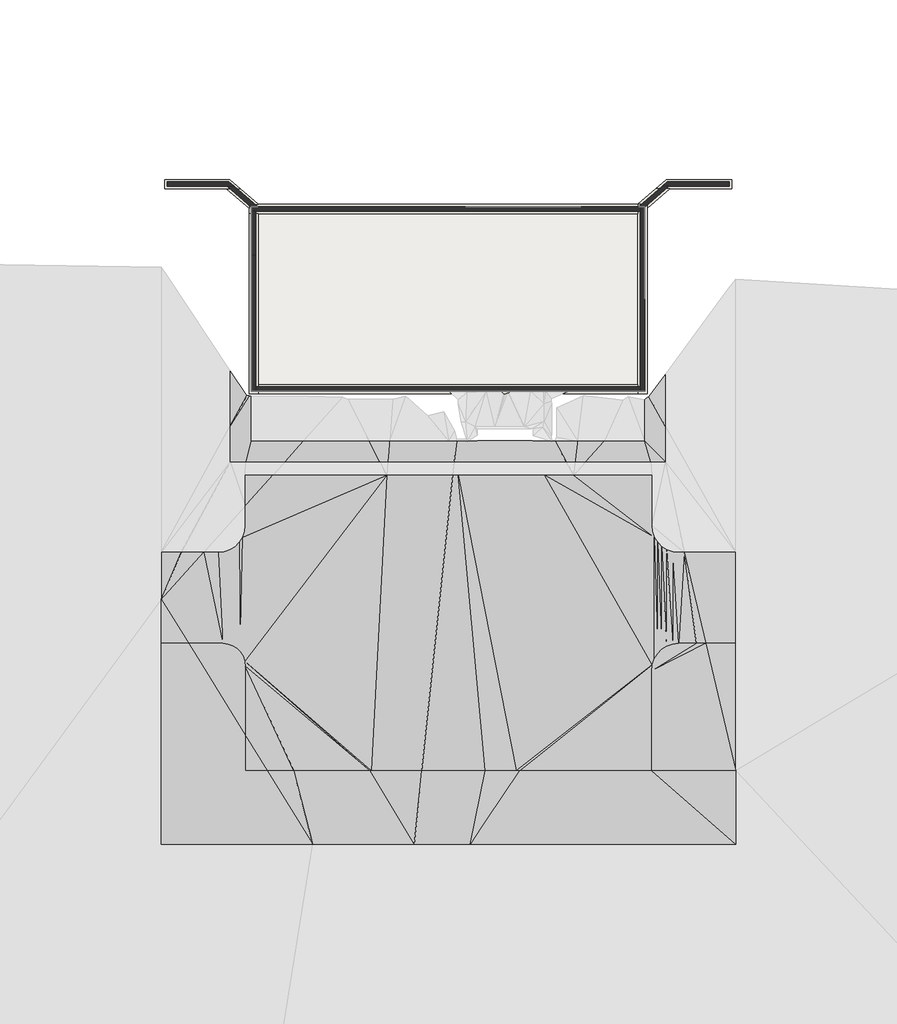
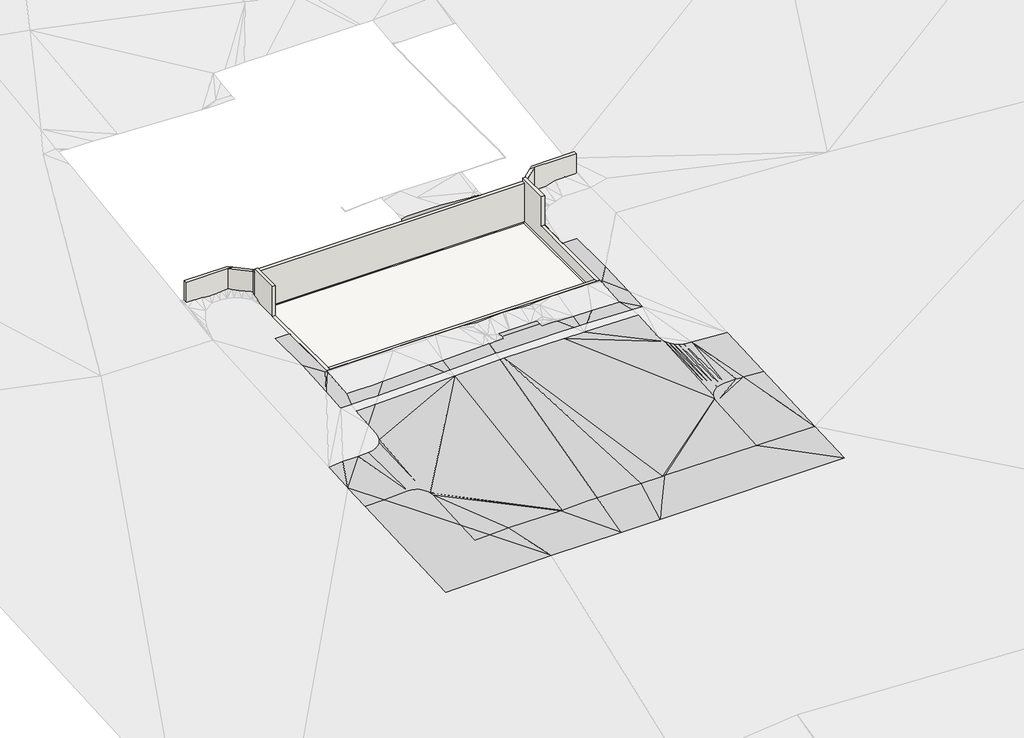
# One storey, part 1 of 2: 17 walls, 4 proxies, 1 slab.
"""IFC4 building model written with IfcOpenShell, lengths in millimetres."""

from ifc_helpers import new_model, si_unit, frame, origin, place, context, project, spatial, polyline, outline, extrude, faceted_brep, triangles, element, save

model = new_model("IFC4")

# Units and contexts
model_context = context("Model", 3, world=origin())
ifc_project = project(units=[si_unit("LENGTHUNIT", "METRE", prefix="MILLI")], contexts=[model_context])

# Site, building, storey
site = spatial("IfcSite", under=ifc_project)
building = spatial("IfcBuilding", under=site)
storey = spatial("IfcBuildingStorey", under=building, Name="T. O. Footing", Elevation=38404.8)

# Proxies
placement = place(None, origin())
element("IfcBuildingElementProxy", 1, Name="Building Element Proxy", at=placement, inside=storey, context=model_context, shape_type="Tessellation", body=[
    triangles([(617.5082382, -9798.1275146, 38379.241095), (617.5082382, -9798.1275146, 39624.0), (617.5082382, -8388.4769302, 38379.241095), (617.5082382, -8388.4769302, 39649.5472778), (617.5082382, -6491.3572632, 38379.241095), (617.5082382, -6491.3572632, 39692.4004761), (617.5082382, -5660.0510284, 38379.241095), (617.5082382, -5660.0510284, 39839.0984985), (617.5082382, -5389.9843735, 38379.241095), (617.5082382, -5389.9843735, 39859.627478), (617.5082382, -5186.2096024, 38379.241095), (617.5082382, -5186.2096024, 39876.8310791), (617.5082382, -4959.5048355, 38379.241095), (617.5082382, -4959.5048355, 39928.8), (617.5082382, -4397.1458473, 38379.241095), (617.5082382, -4397.1458473, 39928.8), (617.5082382, -4125.0095512, 38379.241095), (617.5082382, -4125.0095512, 39928.8), (617.5082382, -3716.6620926, 38379.241095), (617.5082382, -3716.6620926, 39928.8), (617.5082382, -3634.8040077, 38379.241095), (617.5082382, -3634.8040077, 39991.1403809), (617.5082382, -3630.857737, 38379.241095), (617.5082382, -3630.857737, 40009.7345947), (617.5082382, -3622.7521271, 38379.241095), (617.5082382, -3622.7521271, 40121.2905762)], [[1, 4, 2], [1, 3, 4], [3, 6, 4], [3, 5, 6], [5, 8, 6], [5, 7, 8], [7, 10, 8], [7, 9, 10], [9, 12, 10], [9, 11, 12], [11, 14, 12], [11, 13, 14], [13, 16, 14], [13, 15, 16], [15, 18, 16], [15, 17, 18], [17, 20, 18], [17, 19, 20], [19, 22, 20], [19, 21, 22], [21, 24, 22], [21, 23, 24], [23, 26, 24], [23, 25, 26]], closed=False),
    triangles([(-25379.7113159, -3622.7521271, 38379.241095), (-25379.7113159, -3622.7521271, 40728.3093384), (-25669.9540649, -3622.7521271, 38379.241095), (-25669.9540649, -3622.7521271, 40233.6), (-25697.433783, -3622.7521271, 38379.241095), (-25697.433783, -3622.7521271, 40198.2626221), (-25798.4927307, -3622.7521271, 38379.241095), (-25798.4927307, -3622.7521271, 40250.5245483), (-25798.4927307, -3694.0181259, 38379.241095), (-25798.4927307, -3694.0181259, 40044.6719971), (-25798.4927307, -4013.5372856, 38379.241095), (-25798.4927307, -4013.5372856, 39938.7296265), (-25798.4927307, -4331.7190269, 38379.241095), (-25798.4927307, -4331.7190269, 39873.1940918), (-25798.4927307, -4494.3152069, 38379.241095), (-25798.4927307, -4494.3152069, 39768.6934937), (-25798.4927307, -4864.7888145, 38379.241095), (-25798.4927307, -4864.7888145, 39624.0), (-25798.4927307, -4933.3093414, 38379.241095), (-25798.4927307, -4933.3093414, 39624.0), (-25798.4927307, -4938.3631027, 38379.241095), (-25798.4927307, -4938.3631027, 39624.0), (-25798.4927307, -5043.3148361, 38379.241095), (-25798.4927307, -5043.3148361, 39624.0), (-25798.4927307, -6360.098996, 38379.241095), (-25798.4927307, -6360.098996, 39624.0), (-25798.4927307, -7375.1230865, 38379.241095), (-25798.4927307, -7375.1230865, 39624.0), (-25798.4927307, -9740.3670868, 38379.241095), (-25798.4927307, -9740.3670868, 39624.0), (-25798.4927307, -9830.4011261, 38379.241095), (-25798.4927307, -9830.4011261, 39624.0), (-25798.4927307, -9850.2278229, 38379.241095), (-25798.4927307, -9850.2278229, 39624.0), (-25798.4927307, -10146.0295349, 38379.241095), (-25798.4927307, -10146.0295349, 39624.0), (-25798.4927307, -16017.9525146, 38379.241095), (-25798.4927307, -16017.9525146, 39624.0), (-25262.6114868, -16017.9525146, 38379.241095), (-25262.6114868, -16017.9525146, 39624.0), (-22039.8733154, -16017.9525146, 38379.241095), (-22039.8733154, -16017.9525146, 39624.0), (-19711.5038086, -16017.9525146, 38379.241095), (-19711.5038086, -16017.9525146, 39624.0), (-19563.9174683, -16017.9525146, 38379.241095), (-19563.9174683, -16017.9525146, 39624.0), (-19480.4865143, -16017.9525146, 38379.241095), (-19480.4865143, -16017.9525146, 39669.3088623), (-17935.6842957, -16017.9525146, 38379.241095), (-17935.6842957, -16017.9525146, 39669.3088623), (-17934.2320587, -16017.9525146, 38379.241095), (-17934.2320587, -16017.9525146, 39669.3088623), (-16318.8876343, -16017.9525146, 38379.241095), (-16318.8876343, -16017.9525146, 39669.3088623), (-16264.7141968, -16017.9525146, 38379.241095), (-16264.7141968, -16017.9525146, 39669.4251343), (-15313.5222565, -16017.9525146, 38379.241095), (-15313.5222565, -16017.9525146, 39624.0), (-13104.6373169, -16017.9525146, 38379.241095), (-13104.6373169, -16017.9525146, 39619.0328613), (-12671.1916809, -16017.9525146, 38379.241095), (-12671.1916809, -16017.9525146, 39624.0), (-11532.7832611, -16017.9525146, 38379.241095), (-11532.7832611, -16017.9525146, 39489.2919434), (-11271.3387543, -16017.9525146, 38379.241095), (-11271.3387543, -16017.9525146, 39471.6), (-10032.235318, -16017.9525146, 38379.241095), (-10032.235318, -16017.9525146, 39547.8), (-8767.5212357, -16017.9525146, 38379.241095), (-8767.5212357, -16017.9525146, 39620.0328003), (-8715.470343, -16017.9525146, 38379.241095), (-8715.470343, -16017.9525146, 39620.0328003), (-8564.0249359, -16017.9525146, 38379.241095), (-8564.0249359, -16017.9525146, 39613.1122925), (-7037.4169556, -16017.9525146, 38379.241095), (-7037.4169556, -16017.9525146, 39522.4015503), (-6192.3609787, -16017.9525146, 38379.241095), (-6192.3609787, -16017.9525146, 39471.6), (-6034.8066422, -16017.9525146, 38379.241095), (-6034.8066422, -16017.9525146, 39530.7498779), (-4118.7352249, -16017.9525146, 38379.241095), (-4118.7352249, -16017.9525146, 39624.0), (-3459.8260254, -16017.9525146, 38379.241095), (-3459.8260254, -16017.9525146, 39614.1959473), (-3311.1365547, -16017.9525146, 38379.241095), (-3311.1365547, -16017.9525146, 39614.7075439), (-1449.6644211, -16017.9525146, 38379.241095), (-1449.6644211, -16017.9525146, 39621.1350586), (-619.3576166, -16017.9525146, 38379.241095), (-619.3576166, -16017.9525146, 39624.0), (617.5082382, -16017.9525146, 38379.241095), (617.5082382, -16017.9525146, 39624.0)], [[1, 4, 2], [1, 3, 4], [3, 6, 4], [3, 5, 6], [5, 8, 6], [5, 7, 8], [7, 10, 8], [7, 9, 10], [9, 12, 10], [9, 11, 12], [11, 14, 12], [11, 13, 14], [13, 16, 14], [13, 15, 16], [15, 18, 16], [15, 17, 18], [17, 20, 18], [17, 19, 20], [19, 22, 20], [19, 21, 22], [21, 24, 22], [21, 23, 24], [23, 26, 24], [23, 25, 26], [25, 28, 26], [25, 27, 28], [27, 30, 28], [27, 29, 30], [29, 32, 30], [29, 31, 32], [31, 34, 32], [31, 33, 34], [33, 36, 34], [33, 35, 36], [35, 38, 36], [35, 37, 38], [37, 40, 38], [37, 39, 40], [39, 42, 40], [39, 41, 42], [41, 44, 42], [41, 43, 44], [43, 46, 44], [43, 45, 46], [45, 48, 46], [45, 47, 48], [47, 50, 48], [47, 49, 50], [49, 52, 50], [49, 51, 52], [51, 54, 52], [51, 53, 54], [53, 56, 54], [53, 55, 56], [55, 58, 56], [55, 57, 58], [57, 60, 58], [57, 59, 60], [59, 62, 60], [59, 61, 62], [61, 64, 62], [61, 63, 64], [63, 66, 64], [63, 65, 66], [65, 68, 66], [65, 67, 68], [67, 70, 68], [67, 69, 70], [69, 72, 70], [69, 71, 72], [71, 74, 72], [71, 73, 74], [73, 76, 74], [73, 75, 76], [75, 78, 76], [75, 77, 78], [77, 80, 78], [77, 79, 80], [79, 82, 80], [79, 81, 82], [81, 84, 82], [81, 83, 84], [83, 86, 84], [83, 85, 86], [85, 88, 86], [85, 87, 88], [87, 90, 88], [87, 89, 90], [89, 92, 90], [89, 91, 92]], closed=False),
    triangles([(-3668.7417618, -3622.7521271, 38379.241095), (-3668.7417618, -3622.7521271, 42367.2), (-3693.8972031, -3622.7521271, 38379.241095), (-3693.8972031, -3622.7521271, 42367.2), (-3812.9431343, -3622.7521271, 38379.241095), (-3812.9431343, -3622.7521271, 42367.2), (-4361.559938, -3622.7521271, 38379.241095), (-4361.559938, -3622.7521271, 42449.6135742), (-4750.4728271, -3622.7521271, 38379.241095), (-4750.4728271, -3622.7521271, 42448.9950073), (-7638.4872437, -3622.7521271, 38379.241095), (-7638.4872437, -3622.7521271, 42672.0), (-8669.1975861, -3622.7521271, 38379.241095), (-8669.1975861, -3622.7521271, 42672.0), (-10871.1550415, -3622.7521271, 38379.241095), (-10871.1550415, -3622.7521271, 42672.0), (-11131.5368225, -3622.7521271, 38379.241095), (-11131.5368225, -3622.7521271, 42672.0), (-11373.8964478, -3622.7521271, 38379.241095), (-11373.8964478, -3622.7521271, 42632.5372925), (-11410.979068, -3622.7521271, 38379.241095), (-11410.979068, -3622.7521271, 42631.3373657)], [[1, 4, 2], [1, 3, 4], [3, 6, 4], [3, 5, 6], [5, 8, 6], [5, 7, 8], [7, 10, 8], [7, 9, 10], [9, 12, 10], [9, 11, 12], [11, 14, 12], [11, 13, 14], [13, 16, 14], [13, 15, 16], [15, 18, 16], [15, 17, 18], [17, 20, 18], [17, 19, 20], [19, 22, 20], [19, 21, 22]], closed=False),
    triangles([(617.5082382, -3622.7521271, 38379.241095), (617.5082382, -3622.7521271, 40121.2905762), (594.9359241, -3622.7521271, 38379.241095), (594.9359241, -3622.7521271, 40162.6647949), (198.728513, -3622.7521271, 38379.241095), (198.728513, -3622.7521271, 42176.4395508)], [[1, 4, 2], [1, 3, 4], [3, 6, 4], [3, 5, 6]], closed=False),
    triangles([(617.5082382, -3622.7521271, 38379.241095), (-25798.4927307, -3622.7521271, 38379.241095), (-25798.4927307, -16017.9525146, 38379.241095), (617.5082382, -16017.9525146, 38379.241095)], [[2, 3, 1], [4, 1, 3]], closed=False),
])
element("IfcBuildingElementProxy", 2, Name="Building Element Proxy", at=placement, inside=storey, context=model_context, shape_type="Tessellation", body=[
    triangles([(-31843.6911804, -29990.7461426, 38210.9304382), (-31843.6911804, -32947.5586853, 38079.2849854), (-30015.2283691, -32947.5586853, 38125.9193481), (-27728.8911804, -32947.5586853, 38226.5155334), (-27389.7700195, -32985.767981, 38239.2984741), (-27067.6524719, -33098.4820313, 38247.1631104), (-26778.6933655, -33280.0453674, 38249.7164429), (-26537.380188, -33521.3585449, 38246.8305725), (-26355.8145264, -33810.3176514, 38238.6496765), (-26243.1004761, -34132.435199, 38225.5830322), (-26204.8911804, -34471.5586853, 38208.2864136), (-26204.8911804, -39109.2593262, 37948.7650452), (-26204.8911804, -41481.9563599, 37843.1273071), (-24737.6388794, -41481.9563599, 37880.5482788), (-23065.4479248, -41481.9563599, 37954.1228577), (-22964.1703857, -41481.9563599, 37958.4063171), (-17856.6960938, -41481.9563599, 37928.3430359), (-17743.3053406, -41481.9563599, 37932.5404541), (-15239.1058685, -41481.9563599, 38016.481842), (-14350.7182343, -41481.9563599, 38047.0962524), (-11334.289563, -41481.9563599, 38041.0942932), (-11262.8078796, -41481.9563599, 38040.9524414), (-10099.2347168, -41481.9563599, 38040.9524414), (-8025.6950043, -41481.9563599, 38015.7795593), (-7909.3096664, -41481.9563599, 38014.3610413), (-7787.1607269, -41481.9563599, 38012.4030212), (1074.7082382, -41481.9563599, 37994.4994629), (1074.7082382, -34776.3586853, 38438.5444519), (1120.5600906, -34369.4114319, 38465.4009521), (1255.8163696, -33982.8699097, 38490.7226624), (1473.6947857, -33636.1189819, 38513.2445435), (1763.2701336, -33346.543634, 38531.8364319), (2110.0216427, -33128.6662354, 38545.563501), (2496.5618568, -32993.409375, 38553.7397461), (2903.5082382, -32947.5586853, 38555.9535645), (4060.6838264, -32947.5586853, 38553.6164978), (4261.0884544, -32947.5586853, 38548.2586853), (4490.825013, -32947.5586853, 38542.1148743), (4706.3458694, -32947.5586853, 38536.3547607), (6713.5082382, -32947.5586853, 38402.3071289), (6713.5082382, -26838.3525146, 38702.6329834), (3272.9423744, -26838.3525146, 38932.4073303), (2903.5082382, -26838.3525146, 38942.2834717), (2496.5618568, -26792.4994995, 38955.84776), (2110.0216427, -26657.2449646, 38974.1024597), (1763.2701336, -26439.3652405, 38996.1313477), (1473.6947857, -26149.7898926, 39020.8275146), (1255.8163696, -25803.0389648, 39046.9561523), (1120.5600906, -25416.4974426, 39073.2103638), (1074.7082382, -25009.5525146, 39098.2646484), (1074.7082382, -21656.7525146, 39294.5875488), (-4153.477581, -21656.7525146, 39434.3650635), (-6095.3855026, -21656.7525146, 39441.0344238), (-11904.9175232, -21656.7525146, 39441.0344238), (-12261.8120178, -21656.7525146, 39441.7460083), (-16697.3819733, -21656.7525146, 39288.894873), (-24361.1711609, -21656.7525146, 39067.2014282), (-25897.0216003, -21656.7525146, 39061.4017822), (-26204.8911804, -21656.7525146, 39061.4017822), (-26204.8911804, -22088.2192017, 39017.3719116), (-26204.8911804, -23710.2783325, 38856.2119812), (-26204.8911804, -25009.5525146, 38756.4645813), (-26250.7441956, -25416.4974426, 38723.8944763), (-26385.9987305, -25803.0389648, 38690.3058289), (-26603.8784546, -26149.7898926, 38657.3822571), (-26893.4538025, -26439.3652405, 38626.774823), (-27240.2047302, -26657.2449646, 38600.0183167), (-27626.7462524, -26792.4994995, 38578.4521912), (-28033.6911804, -26838.3525146, 38563.1601013), (-29013.3732422, -26838.3525146, 38534.8199707), (-29594.3191772, -26838.3525146, 38532.6270813), (-30342.8386047, -26838.3525146, 38532.6270813), (-30517.4232971, -26838.3525146, 38532.6270813), (-31843.6911804, -26838.3525146, 38407.9974792)], [[67, 5, 6], [64, 8, 9], [65, 7, 8], [1, 2, 3], [1, 4, 70], [3, 4, 1], [5, 68, 4], [6, 7, 66], [15, 16, 12], [17, 18, 10], [16, 17, 11], [12, 16, 11], [12, 13, 14], [14, 15, 12], [11, 17, 10], [10, 56, 9], [10, 18, 56], [73, 1, 72], [69, 70, 4], [71, 1, 70], [74, 1, 73], [67, 68, 5], [67, 6, 66], [69, 4, 68], [72, 1, 71], [65, 8, 64], [62, 63, 57], [61, 62, 57], [64, 56, 63], [59, 60, 58], [57, 58, 60], [57, 60, 61], [63, 56, 57], [66, 7, 65], [64, 9, 56], [18, 19, 56], [23, 24, 54], [25, 29, 24], [26, 29, 25], [55, 56, 20], [22, 54, 21], [22, 23, 54], [55, 20, 21], [29, 26, 28], [26, 27, 28], [29, 30, 53], [53, 24, 29], [47, 31, 32], [39, 40, 41], [33, 34, 45], [30, 31, 48], [46, 32, 33], [49, 50, 52], [48, 53, 30], [49, 52, 48], [54, 24, 53], [31, 47, 48], [48, 52, 53], [50, 51, 52], [54, 55, 21], [35, 43, 44], [42, 43, 35], [42, 36, 37], [35, 36, 42], [42, 37, 38], [46, 33, 45], [42, 38, 39], [34, 44, 45], [39, 41, 42], [46, 47, 32], [44, 34, 35], [20, 56, 19]], closed=False),
])
element("IfcBuildingElementProxy", 3, Name="Building Element Proxy", at=placement, inside=storey, context=model_context, shape_type="Tessellation", body=[
    triangles([(-31843.6911804, -46447.1509644, 37478.2495789), (-21667.2100159, -46447.1509644, 37737.7942017), (-14873.8816498, -46447.1509644, 37697.8082703), (-11101.993277, -46447.1509644, 37690.3040771), (6713.5082382, -46447.1509644, 37739.1848145), (6713.5082382, -41502.1365234, 37981.7700073), (6713.5082382, -32947.5586853, 38402.3071289), (4706.3458694, -32947.5586853, 38536.3547607), (4490.825013, -32947.5586853, 38542.1148743), (4261.0884544, -32947.5586853, 38548.2586853), (4060.6838264, -32947.5586853, 38553.6164978), (2903.5082382, -32947.5586853, 38555.9535645), (2496.5618568, -32993.409375, 38553.7397461), (2110.0216427, -33128.6662354, 38545.563501), (1763.2701336, -33346.543634, 38531.8364319), (1473.6947857, -33636.1189819, 38513.2445435), (1255.8163696, -33982.8699097, 38490.7226624), (1120.5600906, -34369.4114319, 38465.4009521), (1074.7082382, -34776.3586853, 38438.5444519), (1074.7082382, -41481.9563599, 37994.4994629), (-7787.1607269, -41481.9563599, 38012.4030212), (-7909.3096664, -41481.9563599, 38014.3610413), (-8025.6950043, -41481.9563599, 38015.7795593), (-10099.2347168, -41481.9563599, 38040.9524414), (-11262.8078796, -41481.9563599, 38040.9524414), (-11334.289563, -41481.9563599, 38041.0942932), (-14350.7182343, -41481.9563599, 38047.0962524), (-15239.1058685, -41481.9563599, 38016.481842), (-17743.3053406, -41481.9563599, 37932.5404541), (-17856.6960938, -41481.9563599, 37928.3430359), (-22964.1703857, -41481.9563599, 37958.4063171), (-23065.4479248, -41481.9563599, 37954.1228577), (-24737.6388794, -41481.9563599, 37880.5482788), (-26204.8911804, -41481.9563599, 37843.1273071), (-26204.8911804, -39109.2593262, 37948.7650452), (-26204.8911804, -34471.5586853, 38208.2864136), (-26243.1004761, -34132.435199, 38225.5830322), (-26355.8145264, -33810.3176514, 38238.6496765), (-26537.380188, -33521.3585449, 38246.8305725), (-26778.6933655, -33280.0453674, 38249.7164429), (-27067.6524719, -33098.4820313, 38247.1631104), (-27389.7700195, -32985.767981, 38239.2984741), (-27728.8911804, -32947.5586853, 38226.5155334), (-30015.2283691, -32947.5586853, 38125.9193481), (-31843.6911804, -32947.5586853, 38079.2849854)], [[32, 2, 31], [34, 1, 2], [2, 33, 34], [2, 32, 33], [1, 34, 35], [30, 2, 3], [27, 3, 4], [28, 3, 27], [29, 30, 3], [28, 29, 3], [2, 30, 31], [38, 41, 42], [36, 43, 44], [37, 42, 43], [35, 44, 45], [43, 36, 37], [37, 38, 42], [41, 39, 40], [41, 38, 39], [36, 44, 35], [45, 1, 35], [4, 23, 24], [23, 4, 22], [25, 26, 4], [24, 25, 4], [4, 26, 27], [20, 5, 6], [20, 21, 4], [20, 6, 19], [22, 4, 21], [6, 8, 19], [4, 5, 20], [19, 17, 18], [19, 16, 17], [15, 16, 19], [19, 14, 15], [13, 14, 19], [12, 13, 19], [11, 12, 19], [11, 19, 10], [9, 10, 19], [8, 9, 19], [6, 7, 8]], closed=False),
])
element("IfcBuildingElementProxy", 4, Name="Building Element Proxy", at=placement, inside=storey, context=model_context, shape_type="Tessellation", body=[
    triangles([(-27201.8419556, -9798.1275146, 39624.0), (-27201.8419556, -14364.1720642, 39624.0), (-27201.8419556, -18316.9784637, 39376.8941528), (-27201.8419556, -20742.3525146, 39131.2672852), (-26173.8930725, -20742.3525146, 39154.7170166), (-25917.0878174, -20742.3525146, 39154.7170166), (-25789.8932556, -20742.3525146, 39154.7170166), (-24508.7807556, -20742.3525146, 39159.5492798), (-23963.4442749, -20742.3525146, 39159.5492798), (-23540.1933655, -20742.3525146, 39161.1491821), (-17169.5205963, -20742.3525146, 39345.4356079), (-16904.2495789, -20742.3525146, 39345.4356079), (-16626.8641846, -20742.3525146, 39345.4356079), (-15035.540387, -20742.3525146, 39407.1667236), (-12165.4655731, -20742.3525146, 39506.0676636), (-11934.5331573, -20742.3525146, 39505.6118774), (-8175.4248184, -20742.3525146, 39505.6118774), (-5910.7159607, -20742.3525146, 39505.6118774), (-4654.1868439, -20742.3525146, 39501.2958618), (-4040.9934586, -20742.3525146, 39463.5260742), (-3332.9131325, -20742.3525146, 39465.9724365), (1023.9082867, -20742.3525146, 39349.4911743), (1989.1082382, -20742.3525146, 39298.8338013), (1989.1082382, -18358.6596405, 39435.0022339), (1989.1082382, -14514.0512878, 39624.0), (1989.1082382, -13428.8233429, 39624.0), (1989.1082382, -9798.1275146, 39624.0), (786.0600866, -9798.1275146, 39624.0), (617.5082382, -9798.1275146, 39624.0), (617.5082382, -14739.0898773, 39624.0), (617.5082382, -16153.6337677, 39624.0), (617.5082382, -16340.1793579, 39618.1305908), (617.5082382, -19370.7525146, 39440.6716553), (-2102.0667503, -19370.7525146, 39513.3788452), (-3872.2674202, -19370.7525146, 39507.2675903), (-5405.2508835, -19370.7525146, 39601.6897339), (-5633.7107758, -19370.7525146, 39602.4757324), (-6951.6919556, -19370.7525146, 39602.4757324), (-6951.6919556, -19065.9525146, 39624.0), (-6951.6919556, -18532.5525146, 39624.0), (-10609.2919556, -18532.5525146, 39624.0), (-10609.2919556, -19065.9525146, 39624.0), (-10609.2919556, -19370.7525146, 39602.4757324), (-11295.4826294, -19370.7525146, 39602.4757324), (-11978.9571899, -19370.7525146, 39602.4757324), (-12020.9453247, -19370.7525146, 39602.5594482), (-12542.7762634, -19370.7525146, 39584.5744995), (-16521.0880829, -19370.7525146, 39430.2490356), (-17214.5504059, -19370.7525146, 39430.2490356), (-17877.7285309, -19370.7525146, 39430.2490356), (-22308.7289978, -19370.7525146, 39302.070813), (-23366.8551086, -19370.7525146, 39298.0803589), (-24730.1974731, -19370.7525146, 39298.0803589), (-25629.203064, -19370.7525146, 39294.6852173), (-25830.2419556, -19370.7525146, 39294.6852173), (-25830.2419556, -16143.7192566, 39624.0), (-25830.2419556, -9798.1275146, 39624.0), (-25875.6298828, -9798.1275146, 39624.0), (-26018.0002625, -16143.7192566, 39624.0), (769.9082382, -16170.3525146, 39624.0), (885.4340355, -14674.6589264, 39624.0)], [[5, 55, 4], [5, 6, 55], [7, 55, 6], [52, 9, 10], [8, 53, 7], [9, 53, 8], [13, 48, 12], [48, 13, 14], [15, 47, 14], [10, 11, 51], [49, 11, 12], [47, 15, 46], [46, 16, 45], [46, 15, 16], [48, 14, 47], [59, 3, 56], [55, 3, 4], [56, 2, 59], [3, 59, 2], [1, 2, 58], [57, 58, 2], [57, 2, 56], [54, 7, 53], [50, 11, 49], [55, 7, 54], [51, 11, 50], [51, 52, 10], [53, 9, 52], [56, 3, 55], [49, 12, 48], [43, 16, 17], [38, 17, 18], [38, 39, 17], [17, 42, 43], [36, 37, 18], [38, 18, 37], [18, 19, 36], [16, 43, 44], [35, 20, 21], [34, 21, 22], [33, 22, 23], [19, 35, 36], [19, 20, 35], [35, 21, 34], [22, 33, 34], [23, 24, 33], [39, 40, 42], [17, 39, 42], [42, 40, 41], [30, 31, 60], [60, 31, 32], [26, 30, 61], [61, 60, 25], [24, 25, 60], [60, 32, 24], [61, 25, 26], [28, 29, 26], [26, 27, 28], [30, 26, 29], [61, 30, 60], [33, 24, 32], [16, 44, 45]], closed=False),
])

# Slab
element("IfcSlab", 5, ObjectType="Pad 1", at=placement, inside=storey, context=model_context, shape_type="SweptSolid", body=[
    extrude(outline(polyline([(617.5082664, -3622.7519844), (617.5082664, -16017.9519844), (-25798.4917336, -16017.9519844), (-25798.4917336, -3622.7519844), (617.5082664, -3622.7519844)])), frame((0.0, 0.0, 38379.4), z_axis=(0.0, 0.0, 1.0), x_axis=(1.0, 0.0, 0.0)), (0.0, 0.0, 1.0), 25.4),
])

# Walls
element("IfcWall", 6, ObjectType="Footing", at=placement, inside=storey, context=model_context, shape_type="Brep", body=[
    faceted_brep([(-25950.8917336, -4079.9519844, 37947.6), (-25341.2917336, -4079.9519844, 37947.6), (160.3082664, -4079.9519844, 37947.6), (160.3082664, -4079.9519844, 38404.8), (-25341.2917336, -4079.9519844, 38404.8), (-25950.8917336, -4079.9519844, 38404.8), (-25950.8917336, -3470.3519844, 37947.6), (-25950.8917336, -3470.3519844, 38404.8), (-25322.7221026, -3470.3519844, 38404.8), (141.7386355, -3470.3519844, 38404.8), (160.3082664, -3470.3519844, 38404.8), (160.3082664, -3470.3519844, 37947.6), (141.7386355, -3470.3519844, 37947.6), (-25322.7221026, -3470.3519844, 37947.6), (-25950.8917336, -3731.9749246, 37947.6), (-25950.8917336, -3731.9749246, 38404.8)], [[[0, 1, 2, 3, 4, 5]], [[6, 7, 8, 9, 10, 11, 12, 13]], [[2, 1, 0, 14, 6, 13, 12, 11]], [[5, 4, 3, 10, 9, 8, 7, 15]], [[0, 5, 15, 7, 6, 14]], [[3, 2, 11, 10]]]),
])
element("IfcWall", 7, ObjectType="Footing", at=placement, inside=storey, context=model_context, shape_type="Brep", body=[
    faceted_brep([(-25341.2917336, -16170.3519844, 37947.6), (-25341.2917336, -15560.7519844, 37947.6), (-25341.2917336, -4079.9519844, 37947.6), (-25341.2917336, -4079.9519844, 38404.8), (-25341.2917336, -15560.7519844, 38404.8), (-25341.2917336, -16170.3519844, 38404.8), (-25950.8917336, -16170.3519844, 37947.6), (-25950.8917336, -16170.3519844, 38404.8), (-25950.8917336, -4079.9519844, 38404.8), (-25950.8917336, -4079.9519844, 37947.6)], [[[0, 1, 2, 3, 4, 5]], [[6, 7, 8, 9]], [[2, 1, 0, 6, 9]], [[5, 4, 3, 8, 7]], [[0, 5, 7, 6]], [[3, 2, 9, 8]]]),
])
element("IfcWall", 8, ObjectType="Footing", at=placement, inside=storey, context=model_context, shape_type="SweptSolid", body=[
    extrude(outline(polyline([(-25341.2917336, -15560.7519844), (160.3082664, -15560.7519844), (160.3082664, -16170.3519844), (-25341.2917336, -16170.3519844), (-25341.2917336, -15560.7519844)])), frame((0.0, 0.0, 37947.6), z_axis=(0.0, 0.0, 1.0), x_axis=(1.0, 0.0, 0.0)), (0.0, 0.0, 1.0), 457.2),
])
element("IfcWall", 9, ObjectType="Footing", at=placement, inside=storey, context=model_context, shape_type="Brep", body=[
    faceted_brep([(160.3082664, -3470.3519844, 37947.6), (160.3082664, -4079.9519844, 37947.6), (160.3082664, -15560.7519844, 37947.6), (160.3082664, -16170.3519844, 37947.6), (160.3082664, -16170.3519844, 38404.8), (160.3082664, -15560.7519844, 38404.8), (160.3082664, -4079.9519844, 38404.8), (160.3082664, -3470.3519844, 38404.8), (769.9082664, -3470.3519844, 37947.6), (769.9082664, -3470.3519844, 38404.8), (769.9082664, -3731.9749246, 38404.8), (769.9082664, -16170.3519844, 38404.8), (769.9082664, -16170.3519844, 37947.6), (769.9082664, -3731.9749246, 37947.6)], [[[0, 1, 2, 3, 4, 5, 6, 7]], [[8, 9, 10, 11, 12, 13]], [[3, 2, 1, 0, 8, 13, 12]], [[7, 6, 5, 4, 11, 10, 9]], [[0, 7, 9, 8]], [[4, 3, 12, 11]]]),
])
element("IfcWall", 10, ObjectType="Footing", at=placement, inside=storey, context=model_context, shape_type="Brep", body=[
    faceted_brep([(-31631.9377178, -2403.5519844, 37947.6), (-27478.7174718, -2403.5519844, 37947.6), (-26549.6540143, -2403.5519844, 37947.6), (-26549.6540143, -2403.5519844, 38404.8), (-27478.7174718, -2403.5519844, 38404.8), (-31631.9377178, -2403.5519844, 38404.8), (-31631.9377178, -1793.9519844, 37947.6), (-31631.9377178, -1793.9519844, 38404.8), (-27250.7579638, -1793.9519844, 38404.8), (-27250.7579638, -1793.9519844, 37947.6)], [[[0, 1, 2, 3, 4, 5]], [[6, 7, 8, 9]], [[2, 1, 0, 6, 9]], [[5, 4, 3, 8, 7]], [[0, 5, 7, 6]], [[3, 2, 9, 8]]]),
])
element("IfcWall", 11, ObjectType="Footing", at=placement, inside=storey, context=model_context, shape_type="SweptSolid", body=[
    extrude(outline(polyline([(-25950.8917336, -3731.9749246), (-27478.7174718, -2403.5519844), (-26549.6540143, -2403.5519844), (-25322.7221026, -3470.3519844), (-25950.8917336, -3470.3519844), (-25950.8917336, -3731.9749246)])), frame((0.0, 0.0, 37947.6), z_axis=(0.0, 0.0, 1.0), x_axis=(1.0, 0.0, 0.0)), (0.0, 0.0, 1.0), 457.2),
])
element("IfcWall", 12, ObjectType="Footing", at=placement, inside=storey, context=model_context, shape_type="Brep", body=[
    faceted_brep([(6450.9542506, -1793.9519844, 37947.6), (2069.7744966, -1793.9519844, 37947.6), (2069.7744966, -1793.9519844, 38404.8), (6450.9542506, -1793.9519844, 38404.8), (6450.9542506, -2403.5519844, 37947.6), (6450.9542506, -2403.5519844, 38404.8), (2297.7340046, -2403.5519844, 38404.8), (1368.6705471, -2403.5519844, 38404.8), (1368.6705471, -2403.5519844, 37947.6), (2297.7340046, -2403.5519844, 37947.6)], [[[0, 1, 2, 3]], [[4, 5, 6, 7, 8, 9]], [[1, 0, 4, 9, 8]], [[3, 2, 7, 6, 5]], [[0, 3, 5, 4]], [[2, 1, 8, 7]]]),
])
element("IfcWall", 13, ObjectType="Footing", at=placement, inside=storey, context=model_context, shape_type="Brep", body=[
    faceted_brep([(1368.6705471, -2403.5519844, 37947.6), (141.7386355, -3470.3519844, 37947.6), (141.7386355, -3470.3519844, 38404.8), (1368.6705471, -2403.5519844, 38404.8), (2297.7340046, -2403.5519844, 37947.6), (2297.7340046, -2403.5519844, 38404.8), (769.9082664, -3731.9749246, 38404.8), (769.9082664, -3731.9749246, 37947.6), (769.9082664, -3470.3519844, 37947.6), (160.3082664, -3470.3519844, 37947.6), (160.3082664, -3470.3519844, 38404.8), (769.9082664, -3470.3519844, 38404.8)], [[[0, 1, 2, 3]], [[4, 5, 6, 7]], [[1, 0, 4, 7, 8, 9]], [[3, 2, 10, 11, 6, 5]], [[2, 1, 9, 8, 11, 10]], [[8, 7, 6, 11]], [[0, 3, 5, 4]]]),
])
element("IfcWall", 14, ObjectType="Foundation - 12\" Concrete", at=placement, inside=storey, context=model_context, shape_type="Brep", body=[
    faceted_brep([(-25798.4917336, -3927.5519844, 38404.8), (-25493.6917336, -3927.5519844, 38404.8), (312.7082664, -3927.5519844, 38404.8), (312.7082664, -3927.5519844, 42348.15), (-25798.4917336, -3927.5519844, 42348.15), (-25798.4917336, -3622.7519844, 38404.8), (-25798.4917336, -3622.7519844, 42348.15), (312.7082664, -3622.7519844, 42348.15), (312.7082664, -3622.7519844, 38404.8)], [[[0, 1, 2, 3, 4]], [[5, 6, 7, 8]], [[2, 1, 0, 5, 8]], [[0, 4, 6, 5]], [[3, 2, 8, 7]], [[4, 3, 7, 6]]]),
])
element("IfcWall", 15, ObjectType="Foundation - 12\" Concrete", at=placement, inside=storey, context=model_context, shape_type="Brep", body=[
    faceted_brep([(-25493.6917336, -16017.9519844, 38404.8), (-25493.6917336, -15713.1519844, 38404.8), (-25493.6917336, -6877.1269844, 38404.8), (-25493.6917336, -6877.1269844, 39624.0), (-25493.6917336, -15713.1519844, 39624.0), (-25493.6917336, -16017.9519844, 39624.0), (-25798.4917336, -16017.9519844, 38404.8), (-25798.4917336, -16017.9519844, 39624.0), (-25798.4917336, -6877.1269844, 39624.0), (-25798.4917336, -6877.1269844, 38404.8)], [[[0, 1, 2, 3, 4, 5]], [[6, 7, 8, 9]], [[2, 1, 0, 6, 9]], [[3, 2, 9, 8]], [[5, 4, 3, 8, 7]], [[0, 5, 7, 6]]]),
])
element("IfcWall", 16, ObjectType="Foundation - 12\" Concrete", at=placement, inside=storey, context=model_context, shape_type="Brep", body=[
    faceted_brep([(312.7082664, -15713.1519844, 38404.8), (-25493.6917336, -15713.1519844, 38404.8), (-25493.6917336, -15713.1519844, 39519.225), (-25493.6917336, -15713.1519844, 39624.0), (312.7082664, -15713.1519844, 39624.0), (312.7082664, -15713.1519844, 39519.225), (312.7082664, -16017.9519844, 38404.8), (312.7082664, -16017.9519844, 39624.0), (-25493.6917336, -16017.9519844, 39624.0), (-25493.6917336, -16017.9519844, 38404.8)], [[[0, 1, 2, 3, 4, 5]], [[6, 7, 8, 9]], [[1, 0, 6, 9]], [[4, 3, 8, 7]], [[3, 2, 1, 9, 8]], [[0, 5, 4, 7, 6]]]),
])
element("IfcWall", 17, ObjectType="Foundation - 12\" Concrete", at=placement, inside=storey, context=model_context, shape_type="Brep", body=[
    faceted_brep([(312.7082664, -3622.7519844, 38404.8), (312.7082664, -3927.5519844, 38404.8), (312.7082664, -15713.1519844, 38404.8), (312.7082664, -16017.9519844, 38404.8), (312.7082664, -16017.9519844, 39624.0), (312.7082664, -15713.1519844, 39624.0), (312.7082664, -6746.9519844, 39624.0), (312.7082664, -6746.9519844, 42672.0), (312.7082664, -3622.7519844, 42672.0), (312.7082664, -3622.7519844, 42348.15), (617.5082664, -3622.7519844, 38404.8), (617.5082664, -3622.7519844, 42672.0), (617.5082664, -6746.9519844, 42672.0), (617.5082664, -6746.9519844, 39624.0), (617.5082664, -16017.9519844, 39624.0), (617.5082664, -16017.9519844, 38404.8)], [[[0, 1, 2, 3, 4, 5, 6, 7, 8, 9]], [[10, 11, 12, 13, 14, 15]], [[3, 2, 1, 0, 10, 15]], [[0, 9, 8, 11, 10]], [[4, 3, 15, 14]], [[6, 5, 4, 14, 13]], [[6, 13, 12, 7]], [[8, 7, 12, 11]]]),
])
element("IfcWall", 18, ObjectType="Foundation - 12\" Concrete", at=placement, inside=storey, context=model_context, shape_type="Brep", body=[
    faceted_brep([(-25493.6917336, -6877.1269844, 38404.8), (-25493.6917336, -3927.5519844, 38404.8), (-25493.6917336, -3927.5519844, 42672.0), (-25493.6917336, -6877.1269844, 42672.0), (-25493.6917336, -6877.1269844, 39624.0), (-25798.4917336, -6877.1269844, 38404.8), (-25798.4917336, -6877.1269844, 39624.0), (-25798.4917336, -6877.1269844, 42672.0), (-25798.4917336, -3927.5519844, 42672.0), (-25798.4917336, -3927.5519844, 42348.15), (-25798.4917336, -3927.5519844, 38404.8)], [[[0, 1, 2, 3, 4]], [[5, 6, 7, 8, 9, 10]], [[1, 0, 5, 10]], [[0, 4, 3, 7, 6, 5]], [[2, 1, 10, 9, 8]], [[3, 2, 8, 7]]]),
])
element("IfcWall", 19, ObjectType="Retaining - 12\" Concrete", at=placement, inside=storey, context=model_context, shape_type="Brep", body=[
    faceted_brep([(-27307.7478408, -1946.3519844, 38404.8), (-31456.7002104, -1946.3519844, 38404.8), (-31456.7002104, -1946.3519844, 42265.6), (-27307.7478408, -1946.3519844, 42265.6), (-26957.195866, -2251.1519844, 38404.8), (-26957.195866, -2251.1519844, 42265.6), (-27421.7275948, -2251.1519844, 42265.6), (-31456.7002104, -2251.1519844, 42265.6), (-31456.7002104, -2251.1519844, 38404.8), (-27421.7275948, -2251.1519844, 38404.8)], [[[0, 1, 2, 3]], [[4, 5, 6, 7, 8, 9]], [[1, 0, 4, 9, 8]], [[2, 1, 8, 7]], [[3, 2, 7, 6, 5]], [[0, 3, 5, 4]]]),
])
element("IfcWall", 20, ObjectType="Retaining - 12\" Concrete", at=placement, inside=storey, context=model_context, shape_type="Brep", body=[
    faceted_brep([(1776.2123989, -2251.1519844, 38404.8), (2240.7441276, -2251.1519844, 38404.8), (6275.7167433, -2251.1519844, 38404.8), (6275.7167433, -2251.1519844, 42265.6), (2240.7441276, -2251.1519844, 42265.6), (1776.2123989, -2251.1519844, 42265.6), (2126.7643736, -1946.3519844, 38404.8), (2126.7643736, -1946.3519844, 42265.6), (6275.7167433, -1946.3519844, 42265.6), (6275.7167433, -1946.3519844, 38404.8)], [[[0, 1, 2, 3, 4, 5]], [[6, 7, 8, 9]], [[2, 1, 0, 6, 9]], [[3, 2, 9, 8]], [[5, 4, 3, 8, 7]], [[0, 5, 7, 6]]]),
])
element("IfcWall", 21, ObjectType="Retaining - 12\" Concrete", at=placement, inside=storey, context=model_context, shape_type="SweptSolid", body=[
    extrude(outline(polyline([(-26957.195866, -2251.1519844), (-25379.7119796, -3622.7519844), (-25798.4917336, -3622.7519844), (-25798.4917336, -3662.5326815), (-27421.7275948, -2251.1519844), (-26957.195866, -2251.1519844)])), frame((0.0, 0.0, 38404.8), z_axis=(0.0, 0.0, 1.0), x_axis=(1.0, 0.0, 0.0)), (0.0, 0.0, 1.0), 3860.8),
])
element("IfcWall", 22, ObjectType="Retaining - 12\" Concrete", at=placement, inside=storey, context=model_context, shape_type="SweptSolid", body=[
    extrude(outline(polyline([(198.7285124, -3622.7519844), (1776.2123989, -2251.1519844), (2240.7441276, -2251.1519844), (617.5082664, -3662.5326815), (617.5082664, -3622.7519844), (198.7285124, -3622.7519844)])), frame((0.0, 0.0, 38404.8), z_axis=(0.0, 0.0, 1.0), x_axis=(1.0, 0.0, 0.0)), (0.0, 0.0, 1.0), 3860.8),
])

save(model, "model.ifc")
